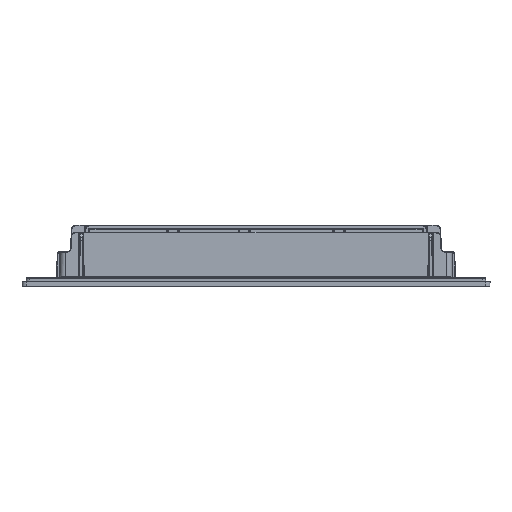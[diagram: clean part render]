
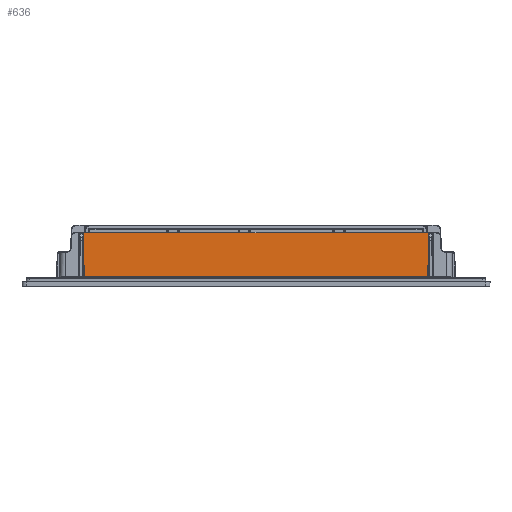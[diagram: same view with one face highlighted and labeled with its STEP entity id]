
A CAD part, top view. The second image highlights one B-rep face of the part: STEP entity #636.
In plain terms, the highlighted planar face has unit normal (0, 0.01, 1).
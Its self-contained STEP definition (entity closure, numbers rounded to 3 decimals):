
#636=ADVANCED_FACE('',(#2059),#21004,.T.);
#2059=FACE_OUTER_BOUND('',#3488,.T.);
#3488=EDGE_LOOP('',(#7451,#7452,#7453,#7454));
#7451=ORIENTED_EDGE('',*,*,#13160,.T.);
#7452=ORIENTED_EDGE('',*,*,#13159,.T.);
#7453=ORIENTED_EDGE('',*,*,#13161,.T.);
#7454=ORIENTED_EDGE('',*,*,#13162,.T.);
#13159=EDGE_CURVE('',#19255,#19256,#17153,.T.);
#13160=EDGE_CURVE('',#19257,#19255,#17154,.T.);
#13161=EDGE_CURVE('',#19256,#19258,#17155,.T.);
#13162=EDGE_CURVE('',#19258,#19257,#17156,.T.);
#17153=B_SPLINE_CURVE_WITH_KNOTS('',1,(#82452,#82453),.UNSPECIFIED.,.F.,
 .F.,(2,2),(0.,159.798),.UNSPECIFIED.);
#17154=B_SPLINE_CURVE_WITH_KNOTS('',1,(#82454,#82455),.UNSPECIFIED.,.F.,
 .F.,(2,2),(-20.408,0.),.UNSPECIFIED.);
#17155=B_SPLINE_CURVE_WITH_KNOTS('',1,(#82456,#82457),.UNSPECIFIED.,.F.,
 .F.,(2,2),(-20.408,0.),.UNSPECIFIED.);
#17156=B_SPLINE_CURVE_WITH_KNOTS('',1,(#82458,#82459),.UNSPECIFIED.,.F.,
 .F.,(2,2),(0.,159.406),.UNSPECIFIED.);
#19255=VERTEX_POINT('',#65357);
#19256=VERTEX_POINT('',#65358);
#19257=VERTEX_POINT('',#65359);
#19258=VERTEX_POINT('',#65360);
#21004=PLANE('',#21348);
#21348=AXIS2_PLACEMENT_3D('',#37913,#21676,$);
#21676=DIRECTION('',(0.,0.01,1.));
#37913=CARTESIAN_POINT('',(-95.939,-12.004,44.917));
#65357=CARTESIAN_POINT('',(79.899,10.503,44.701));
#65358=CARTESIAN_POINT('',(-79.899,10.503,44.701));
#65359=CARTESIAN_POINT('',(79.703,-9.903,44.897));
#65360=CARTESIAN_POINT('',(-79.703,-9.903,44.897));
#82452=CARTESIAN_POINT('',(79.899,10.503,44.701));
#82453=CARTESIAN_POINT('',(-79.899,10.503,44.701));
#82454=CARTESIAN_POINT('',(79.703,-9.903,44.897));
#82455=CARTESIAN_POINT('',(79.899,10.503,44.701));
#82456=CARTESIAN_POINT('',(-79.899,10.503,44.701));
#82457=CARTESIAN_POINT('',(-79.703,-9.903,44.897));
#82458=CARTESIAN_POINT('',(-79.703,-9.903,44.897));
#82459=CARTESIAN_POINT('',(79.703,-9.903,44.897));
